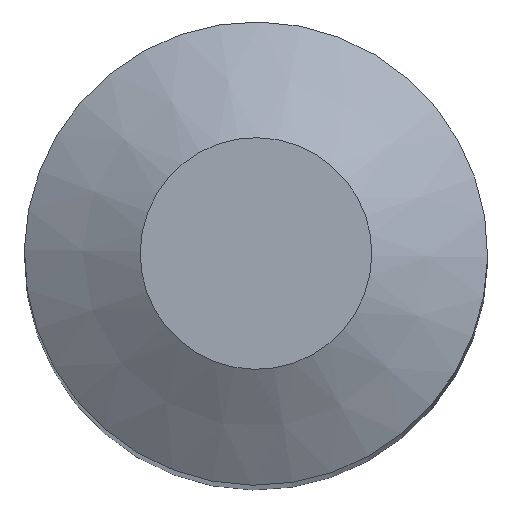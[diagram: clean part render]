
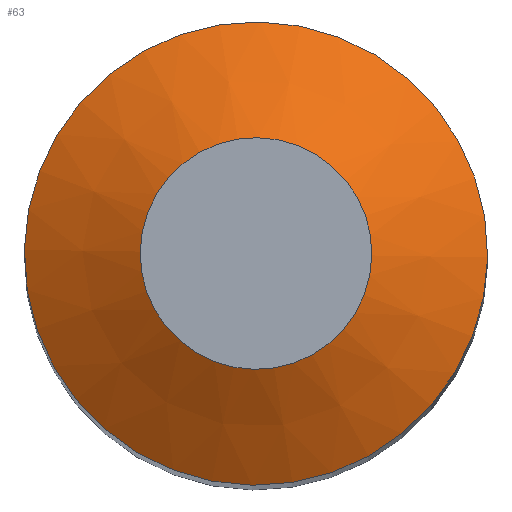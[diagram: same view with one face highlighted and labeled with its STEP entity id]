
A CAD part, top view. The second image highlights one B-rep face of the part: STEP entity #63.
In plain terms, the highlighted conical face has half-angle 60 degrees and reference radius 3 mm.
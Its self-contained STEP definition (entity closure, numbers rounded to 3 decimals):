
#44=CONICAL_SURFACE('',#156,3.,60.);
#55=FACE_BOUND('',#82,.T.);
#56=FACE_BOUND('',#83,.T.);
#63=ADVANCED_FACE('',(#55,#56),#44,.T.);
#82=EDGE_LOOP('',(#96));
#83=EDGE_LOOP('',(#97));
#96=ORIENTED_EDGE('',*,*,#114,.F.);
#97=ORIENTED_EDGE('',*,*,#113,.T.);
#106=VERTEX_POINT('',#215);
#107=VERTEX_POINT('',#218);
#113=EDGE_CURVE('',#106,#106,#120,.T.);
#114=EDGE_CURVE('',#107,#107,#121,.T.);
#120=CIRCLE('',#153,3.);
#121=CIRCLE('',#155,1.5);
#153=AXIS2_PLACEMENT_3D('',#214,#183,#184);
#155=AXIS2_PLACEMENT_3D('',#217,#187,#188);
#156=AXIS2_PLACEMENT_3D('',#219,#189,#190);
#183=DIRECTION('',(0.,0.,1.));
#184=DIRECTION('',(-0.755,0.655,0.));
#187=DIRECTION('',(0.,0.,1.));
#188=DIRECTION('',(-0.755,0.655,0.));
#189=DIRECTION('',(0.,0.,-1.));
#190=DIRECTION('',(0.755,-0.655,0.));
#214=CARTESIAN_POINT('',(0.,0.,-0.866));
#215=CARTESIAN_POINT('',(-2.266,1.966,-0.866));
#217=CARTESIAN_POINT('',(0.,0.,0.));
#218=CARTESIAN_POINT('',(-1.133,0.983,0.));
#219=CARTESIAN_POINT('',(0.,0.,-0.866));
